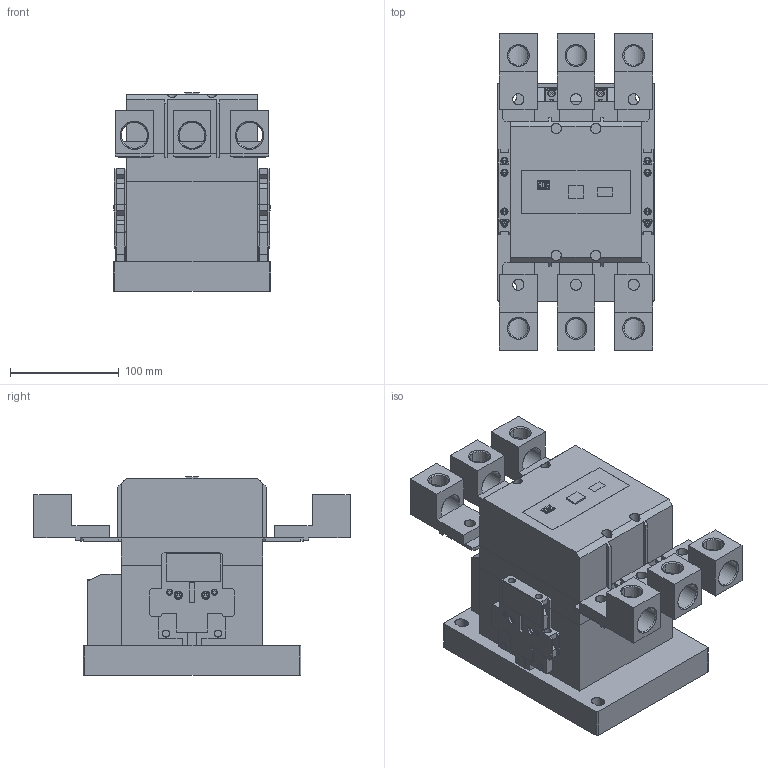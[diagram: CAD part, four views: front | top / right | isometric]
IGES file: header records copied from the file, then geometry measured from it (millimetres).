
Start section: SolidWorks IGES file using analytic representation for surfaces
Global section: file name: Q:\GROUPS\BR_SC_JGS_WA_TECNICO\ENG\Usuarios\Rodrigob\conversão\contatores\Produto\CWM250_E-CWM300_E+LW1-S600\CWM250_E-CWM300_E+LW1-S600.IGS; native system: SolidWorks 2012; preprocessor: SolidWorks 2012; author: rodrigob; date: 120726.084434; units: millimetre
Bounding box: 145.1 x 290.7 x 182.45 mm (x, y, z)
Surface area: 395819.2 mm2 (no closed solid volume)
Topology: 0 solids, 0 shells, 2545 faces, 22621 edges, 22589 vertices
Faces by surface type: bspline 1856, revolution 689
